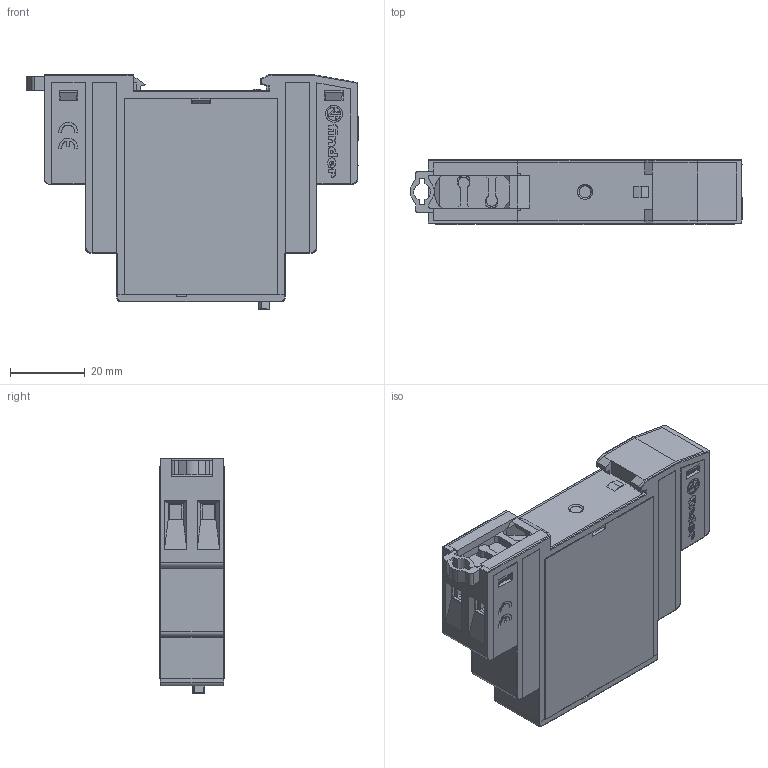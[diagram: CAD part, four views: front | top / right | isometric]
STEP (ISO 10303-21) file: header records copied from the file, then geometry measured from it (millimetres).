
FILE_DESCRIPTION(('STEP AP214'),'2;1');
FILE_NAME('14_71---catalogo_OK.stp','2011-02-17T10:24:39',(''),(''),'2007.1.106','THINKDESIGN','');
FILE_SCHEMA(('AUTOMOTIVE_DESIGN'));
Products named in the file (1): None
Bounding box: 88.85 x 17.5 x 62.8 mm (x, y, z)
Surface area: 18774.4 mm2 (no closed solid volume)
Topology: 0 solids, 0 shells, 1048 faces, 6278 edges, 6249 vertices
Faces by surface type: plane 807, cylinder 122, bspline 119
Full cylindrical faces by diameter (mm): 3 x6, 5 x5
Entity records: 65323 total; most frequent: CARTESIAN_POINT 21032, DIRECTION 7569, COMPOSITE_CURVE_SEGMENT 6270, TRIMMED_CURVE 5461, VECTOR 5245, LINE 5245, AXIS2_PLACEMENT_3D 1162, OUTER_BOUNDARY_CURVE 1048
